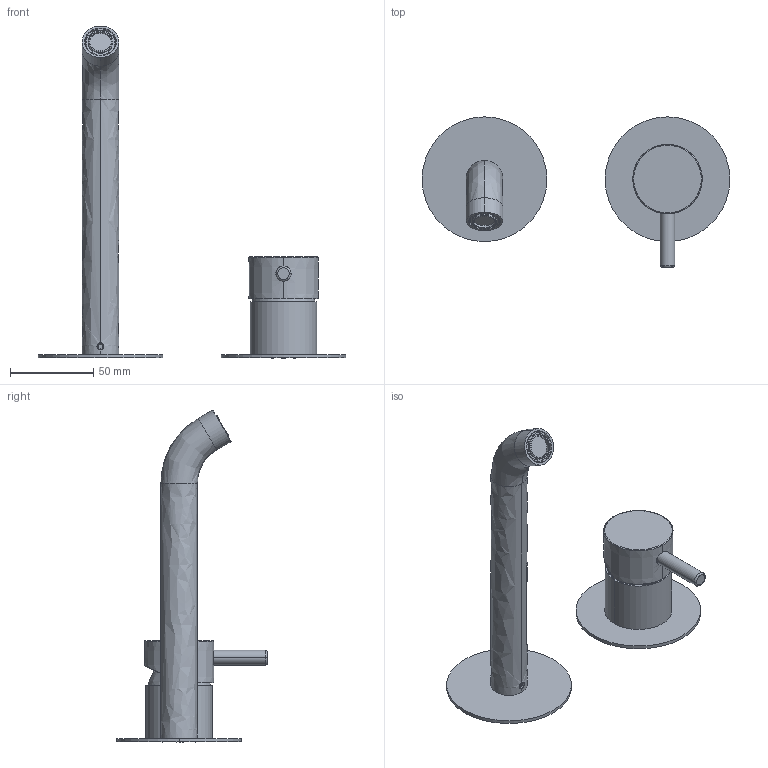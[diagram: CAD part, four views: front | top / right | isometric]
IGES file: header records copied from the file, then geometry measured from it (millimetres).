
Start section:  PTC IGES file: 12539.igs
Global section: file name: 12539.igs; native system: Creo Parametric by PTC Inc.; preprocessor: 2022014; author: carloff; organization: Unknown; date: 20240319.141141; units: millimetre
Bounding box: 185 x 90.4 x 199.53 mm (x, y, z)
Surface area: 91706.5 mm2 (no closed solid volume)
Topology: 0 solids, 0 shells, 848 faces, 4862 edges, 4858 vertices
Faces by surface type: revolution 487, bspline 361
